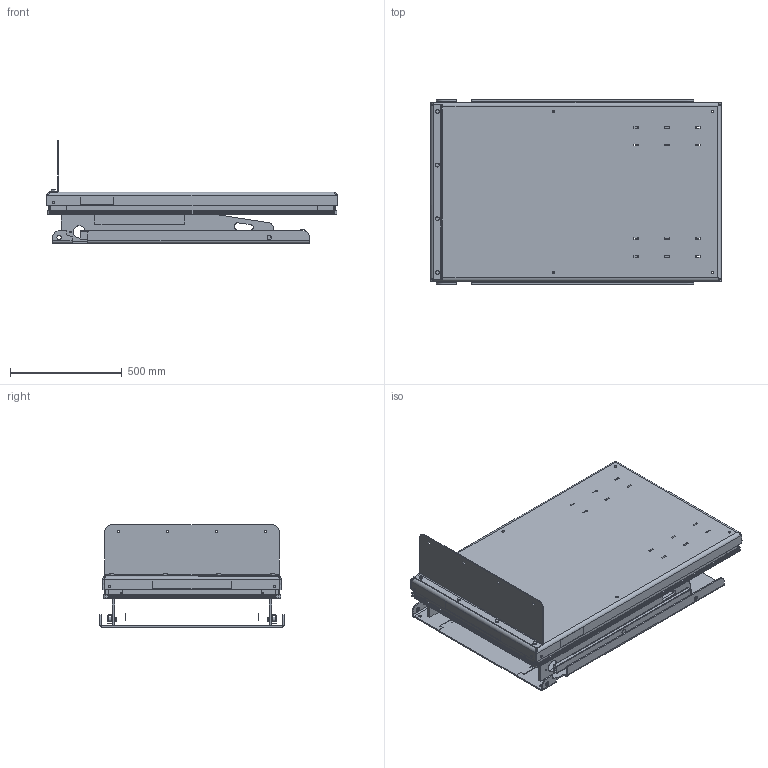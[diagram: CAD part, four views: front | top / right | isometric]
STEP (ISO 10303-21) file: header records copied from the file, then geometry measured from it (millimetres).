
FILE_DESCRIPTION(/* description */ (''),/* implementation_level */ '2;1');
FILE_NAME(/* name */ '\\EDMOFILE01\Users$\LENRO\Desktop\Runden ALT 1500\34031_Bottenläge.stp',/* time_stamp */ '2015-05-29T08:47:07+02:00',/* author */ ('lenro'),/* organization */ (''),/* preprocessor_version */ 'ST-DEVELOPER v15.6',/* originating_system */ 'Autodesk Inventor 2015',/* authorisation */ '');
FILE_SCHEMA (('AUTOMOTIVE_DESIGN { 1 0 10303 214 3 1 1 }'));
Products named in the file (1): 34031_Bottenläge
Bounding box: 1300.2 x 825 x 459 mm (x, y, z)
Volume: 23186869 mm3; surface area: 7240543.4 mm2
Topology: 3 solids, 21 shells, 4687 faces, 13093 edges, 8521 vertices
Faces by surface type: plane 2421, cylinder 1494, bspline 526, cone 128, torus 70, sphere 48
Full cylindrical faces by diameter (mm): 0.474 x2, 1 x4, 3 x4, 3.141 x4, 3.2 x4, 4 x16, 4.3 x4, 4.9 x2, 5 x8, 5.2 x6, 5.3 x2, 7.4 x8, 7.5 x4, 7.6 x4, 8 x16, 8.5 x4, 9 x2, 10 x18, 10.5 x4, 11 x6, 11.6 x4, 11.63 x4, 12 x8, 14 x4, 14.6 x4, 14.63 x4, 16 x12, 20 x12, 20.3 x2, 20.5 x2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
Entity records: 170761 total; most frequent: CARTESIAN_POINT 48805, ORIENTED_EDGE 25274, DIRECTION 22774, EDGE_CURVE 12623, VERTEX_POINT 8398, LINE 7714, VECTOR 7714, AXIS2_PLACEMENT_3D 7530
